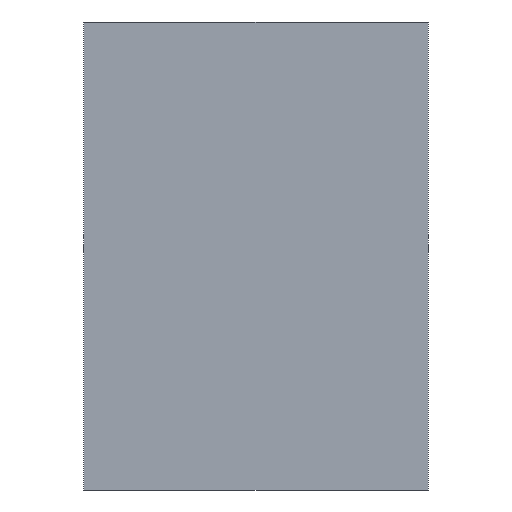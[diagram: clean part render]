
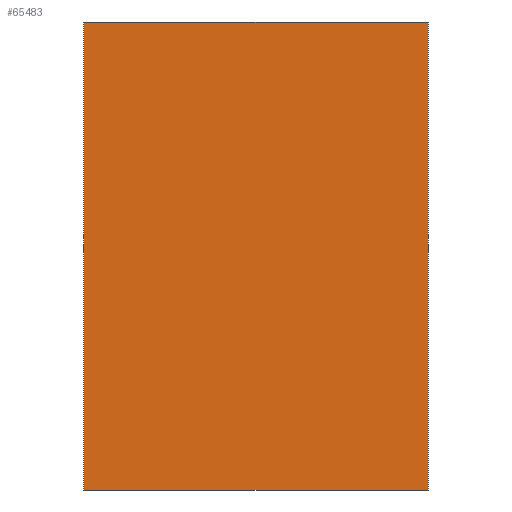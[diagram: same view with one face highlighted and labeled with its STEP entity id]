
A CAD part, front view. The second image highlights one B-rep face of the part: STEP entity #65483.
In plain terms, the highlighted planar face has unit normal (0, -1, 0).
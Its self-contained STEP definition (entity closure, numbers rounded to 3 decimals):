
#65267 = EDGE_CURVE('',#65268,#65270,#65272,.T.);
#65268 = VERTEX_POINT('',#65269);
#65269 = CARTESIAN_POINT('',(-540.,417.5,62.5));
#65270 = VERTEX_POINT('',#65271);
#65271 = CARTESIAN_POINT('',(-540.,417.5,537.5));
#65272 = SURFACE_CURVE('',#65273,(#65277,#65289),.PCURVE_S1.);
#65273 = LINE('',#65274,#65275);
#65274 = CARTESIAN_POINT('',(-540.,417.5,62.5));
#65275 = VECTOR('',#65276,1.);
#65276 = DIRECTION('',(0.,0.,1.));
#65277 = PCURVE('',#65278,#65283);
#65278 = PLANE('',#65279);
#65279 = AXIS2_PLACEMENT_3D('',#65280,#65281,#65282);
#65280 = CARTESIAN_POINT('',(-540.,417.5,62.5));
#65281 = DIRECTION('',(1.,0.,0.));
#65282 = DIRECTION('',(0.,0.,1.));
#65283 = DEFINITIONAL_REPRESENTATION('',(#65284),#65288);
#65284 = LINE('',#65285,#65286);
#65285 = CARTESIAN_POINT('',(0.,0.));
#65286 = VECTOR('',#65287,1.);
#65287 = DIRECTION('',(1.,0.));
#65288 = ( GEOMETRIC_REPRESENTATION_CONTEXT(2) 
PARAMETRIC_REPRESENTATION_CONTEXT() REPRESENTATION_CONTEXT('2D SPACE',''
  ) );
#65289 = PCURVE('',#65290,#65295);
#65290 = PLANE('',#65291);
#65291 = AXIS2_PLACEMENT_3D('',#65292,#65293,#65294);
#65292 = CARTESIAN_POINT('',(-540.,417.5,62.5));
#65293 = DIRECTION('',(0.,1.,0.));
#65294 = DIRECTION('',(0.,0.,1.));
#65295 = DEFINITIONAL_REPRESENTATION('',(#65296),#65300);
#65296 = LINE('',#65297,#65298);
#65297 = CARTESIAN_POINT('',(0.,0.));
#65298 = VECTOR('',#65299,1.);
#65299 = DIRECTION('',(1.,0.));
#65300 = ( GEOMETRIC_REPRESENTATION_CONTEXT(2) 
PARAMETRIC_REPRESENTATION_CONTEXT() REPRESENTATION_CONTEXT('2D SPACE',''
  ) );
#65318 = PLANE('',#65319);
#65319 = AXIS2_PLACEMENT_3D('',#65320,#65321,#65322);
#65320 = CARTESIAN_POINT('',(-540.,417.5,62.5));
#65321 = DIRECTION('',(0.,0.,1.));
#65322 = DIRECTION('',(1.,0.,0.));
#65372 = PLANE('',#65373);
#65373 = AXIS2_PLACEMENT_3D('',#65374,#65375,#65376);
#65374 = CARTESIAN_POINT('',(-540.,417.5,537.5));
#65375 = DIRECTION('',(0.,0.,1.));
#65376 = DIRECTION('',(1.,0.,0.));
#65387 = EDGE_CURVE('',#65388,#65390,#65392,.T.);
#65388 = VERTEX_POINT('',#65389);
#65389 = CARTESIAN_POINT('',(-190.,417.5,62.5));
#65390 = VERTEX_POINT('',#65391);
#65391 = CARTESIAN_POINT('',(-190.,417.5,537.5));
#65392 = SURFACE_CURVE('',#65393,(#65397,#65409),.PCURVE_S1.);
#65393 = LINE('',#65394,#65395);
#65394 = CARTESIAN_POINT('',(-190.,417.5,62.5));
#65395 = VECTOR('',#65396,1.);
#65396 = DIRECTION('',(0.,0.,1.));
#65397 = PCURVE('',#65398,#65403);
#65398 = PLANE('',#65399);
#65399 = AXIS2_PLACEMENT_3D('',#65400,#65401,#65402);
#65400 = CARTESIAN_POINT('',(-190.,417.5,62.5));
#65401 = DIRECTION('',(1.,0.,0.));
#65402 = DIRECTION('',(0.,0.,1.));
#65403 = DEFINITIONAL_REPRESENTATION('',(#65404),#65408);
#65404 = LINE('',#65405,#65406);
#65405 = CARTESIAN_POINT('',(0.,0.));
#65406 = VECTOR('',#65407,1.);
#65407 = DIRECTION('',(1.,0.));
#65408 = ( GEOMETRIC_REPRESENTATION_CONTEXT(2) 
PARAMETRIC_REPRESENTATION_CONTEXT() REPRESENTATION_CONTEXT('2D SPACE',''
  ) );
#65409 = PCURVE('',#65290,#65410);
#65410 = DEFINITIONAL_REPRESENTATION('',(#65411),#65415);
#65411 = LINE('',#65412,#65413);
#65412 = CARTESIAN_POINT('',(0.,350.));
#65413 = VECTOR('',#65414,1.);
#65414 = DIRECTION('',(1.,0.));
#65415 = ( GEOMETRIC_REPRESENTATION_CONTEXT(2) 
PARAMETRIC_REPRESENTATION_CONTEXT() REPRESENTATION_CONTEXT('2D SPACE',''
  ) );
#65483 = ADVANCED_FACE('',(#65484),#65290,.F.);
#65484 = FACE_BOUND('',#65485,.F.);
#65485 = EDGE_LOOP('',(#65486,#65507,#65508,#65529));
#65486 = ORIENTED_EDGE('',*,*,#65487,.F.);
#65487 = EDGE_CURVE('',#65268,#65388,#65488,.T.);
#65488 = SURFACE_CURVE('',#65489,(#65493,#65500),.PCURVE_S1.);
#65489 = LINE('',#65490,#65491);
#65490 = CARTESIAN_POINT('',(-540.,417.5,62.5));
#65491 = VECTOR('',#65492,1.);
#65492 = DIRECTION('',(1.,0.,0.));
#65493 = PCURVE('',#65290,#65494);
#65494 = DEFINITIONAL_REPRESENTATION('',(#65495),#65499);
#65495 = LINE('',#65496,#65497);
#65496 = CARTESIAN_POINT('',(0.,0.));
#65497 = VECTOR('',#65498,1.);
#65498 = DIRECTION('',(0.,1.));
#65499 = ( GEOMETRIC_REPRESENTATION_CONTEXT(2) 
PARAMETRIC_REPRESENTATION_CONTEXT() REPRESENTATION_CONTEXT('2D SPACE',''
  ) );
#65500 = PCURVE('',#65318,#65501);
#65501 = DEFINITIONAL_REPRESENTATION('',(#65502),#65506);
#65502 = LINE('',#65503,#65504);
#65503 = CARTESIAN_POINT('',(0.,0.));
#65504 = VECTOR('',#65505,1.);
#65505 = DIRECTION('',(1.,0.));
#65506 = ( GEOMETRIC_REPRESENTATION_CONTEXT(2) 
PARAMETRIC_REPRESENTATION_CONTEXT() REPRESENTATION_CONTEXT('2D SPACE',''
  ) );
#65507 = ORIENTED_EDGE('',*,*,#65267,.T.);
#65508 = ORIENTED_EDGE('',*,*,#65509,.T.);
#65509 = EDGE_CURVE('',#65270,#65390,#65510,.T.);
#65510 = SURFACE_CURVE('',#65511,(#65515,#65522),.PCURVE_S1.);
#65511 = LINE('',#65512,#65513);
#65512 = CARTESIAN_POINT('',(-540.,417.5,537.5));
#65513 = VECTOR('',#65514,1.);
#65514 = DIRECTION('',(1.,0.,0.));
#65515 = PCURVE('',#65290,#65516);
#65516 = DEFINITIONAL_REPRESENTATION('',(#65517),#65521);
#65517 = LINE('',#65518,#65519);
#65518 = CARTESIAN_POINT('',(475.,0.));
#65519 = VECTOR('',#65520,1.);
#65520 = DIRECTION('',(0.,1.));
#65521 = ( GEOMETRIC_REPRESENTATION_CONTEXT(2) 
PARAMETRIC_REPRESENTATION_CONTEXT() REPRESENTATION_CONTEXT('2D SPACE',''
  ) );
#65522 = PCURVE('',#65372,#65523);
#65523 = DEFINITIONAL_REPRESENTATION('',(#65524),#65528);
#65524 = LINE('',#65525,#65526);
#65525 = CARTESIAN_POINT('',(0.,0.));
#65526 = VECTOR('',#65527,1.);
#65527 = DIRECTION('',(1.,0.));
#65528 = ( GEOMETRIC_REPRESENTATION_CONTEXT(2) 
PARAMETRIC_REPRESENTATION_CONTEXT() REPRESENTATION_CONTEXT('2D SPACE',''
  ) );
#65529 = ORIENTED_EDGE('',*,*,#65387,.F.);
